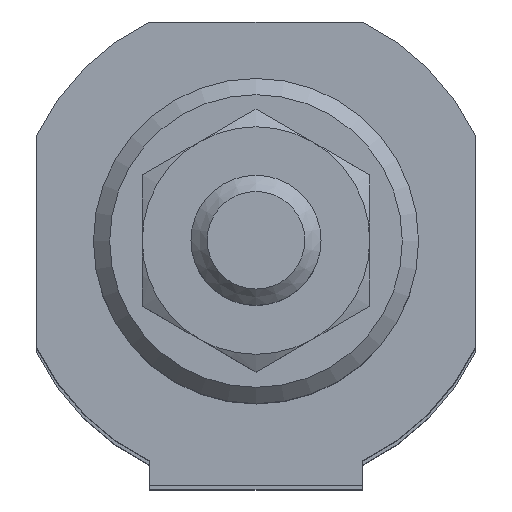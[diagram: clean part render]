
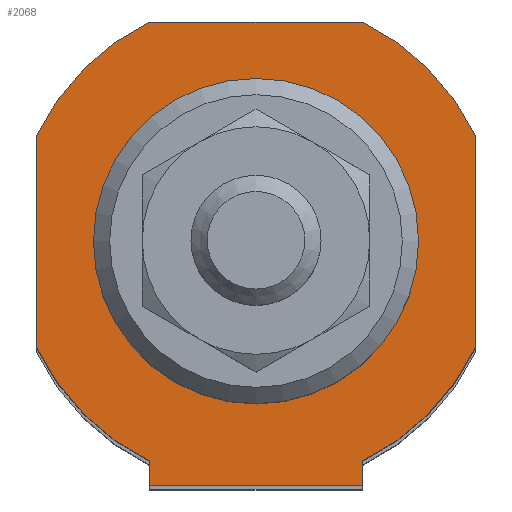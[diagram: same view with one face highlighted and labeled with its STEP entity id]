
A CAD part, top view. The second image highlights one B-rep face of the part: STEP entity #2068.
In plain terms, the highlighted planar face has unit normal (0, 0, 1).
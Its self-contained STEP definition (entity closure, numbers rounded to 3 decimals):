
#1123=CARTESIAN_POINT('',(6.538,-15.0,184.));
#1124=VERTEX_POINT('',#1123);
#1125=CARTESIAN_POINT('',(-6.538,-15.0,184.));
#1126=VERTEX_POINT('',#1125);
#1127=CARTESIAN_POINT('',(6.538,-15.0,184.));
#1128=DIRECTION('',(-1.0,0.0,0.0));
#1129=VECTOR('',#1128,13.077);
#1130=LINE('',#1127,#1129);
#1131=EDGE_CURVE('',#1124,#1126,#1130,.T.);
#1420=CARTESIAN_POINT('',(-6.538,-13.5,184.));
#1421=VERTEX_POINT('',#1420);
#1435=CARTESIAN_POINT('',(-6.538,-13.5,184.));
#1436=DIRECTION('',(0.0,-1.0,0.0));
#1437=VECTOR('',#1436,1.5);
#1438=LINE('',#1435,#1437);
#1439=EDGE_CURVE('',#1421,#1126,#1438,.T.);
#1451=CARTESIAN_POINT('',(6.538,-13.5,184.));
#1452=VERTEX_POINT('',#1451);
#1459=CARTESIAN_POINT('',(6.538,-13.5,184.));
#1460=DIRECTION('',(0.0,-1.0,0.0));
#1461=VECTOR('',#1460,1.5);
#1462=LINE('',#1459,#1461);
#1463=EDGE_CURVE('',#1452,#1124,#1462,.T.);
#1788=CARTESIAN_POINT('',(10.0,0.,184.));
#1789=VERTEX_POINT('',#1788);
#1790=CARTESIAN_POINT('',(0.,0.,184.));
#1791=DIRECTION('',(0.0,0.0,-1.0));
#1792=DIRECTION('',(-1.0,0.0,0.0));
#1793=AXIS2_PLACEMENT_3D('',#1790,#1791,#1792);
#1794=CIRCLE('',#1793,10.0);
#1795=EDGE_CURVE('',#1789,#1789,#1794,.T.);
#1888=CARTESIAN_POINT('',(6.538,13.5,184.));
#1889=VERTEX_POINT('',#1888);
#1890=CARTESIAN_POINT('',(13.5,6.538,184.));
#1891=VERTEX_POINT('',#1890);
#1892=CARTESIAN_POINT('',(0.0,0.0,184.0));
#1893=DIRECTION('',(0.0,0.0,-1.));
#1894=DIRECTION('',(-0.9,-0.436,0.0));
#1895=AXIS2_PLACEMENT_3D('',#1892,#1893,#1894);
#1896=CIRCLE('',#1895,15.);
#1897=EDGE_CURVE('',#1889,#1891,#1896,.T.);
#1920=CARTESIAN_POINT('',(13.5,-6.538,184.));
#1921=VERTEX_POINT('',#1920);
#1922=CARTESIAN_POINT('',(13.5,6.538,184.));
#1923=DIRECTION('',(0.0,-1.0,0.0));
#1924=VECTOR('',#1923,13.077);
#1925=LINE('',#1922,#1924);
#1926=EDGE_CURVE('',#1891,#1921,#1925,.T.);
#1944=CARTESIAN_POINT('',(0.0,0.0,184.0));
#1945=DIRECTION('',(0.0,0.0,-1.));
#1946=DIRECTION('',(-0.436,0.9,0.0));
#1947=AXIS2_PLACEMENT_3D('',#1944,#1945,#1946);
#1948=CIRCLE('',#1947,15.);
#1949=EDGE_CURVE('',#1921,#1452,#1948,.T.);
#1962=CARTESIAN_POINT('',(-13.5,-6.538,184.));
#1963=VERTEX_POINT('',#1962);
#1964=CARTESIAN_POINT('',(0.0,0.0,184.0));
#1965=DIRECTION('',(0.0,0.0,-1.));
#1966=DIRECTION('',(0.9,0.436,0.0));
#1967=AXIS2_PLACEMENT_3D('',#1964,#1965,#1966);
#1968=CIRCLE('',#1967,15.);
#1969=EDGE_CURVE('',#1421,#1963,#1968,.T.);
#1987=CARTESIAN_POINT('',(-13.5,6.538,184.));
#1988=VERTEX_POINT('',#1987);
#1989=CARTESIAN_POINT('',(-13.5,-6.538,184.));
#1990=DIRECTION('',(0.0,1.0,0.0));
#1991=VECTOR('',#1990,13.077);
#1992=LINE('',#1989,#1991);
#1993=EDGE_CURVE('',#1963,#1988,#1992,.T.);
#2011=CARTESIAN_POINT('',(-6.538,13.5,184.));
#2012=VERTEX_POINT('',#2011);
#2013=CARTESIAN_POINT('',(0.0,0.0,184.0));
#2014=DIRECTION('',(0.0,0.0,-1.));
#2015=DIRECTION('',(0.436,-0.9,0.0));
#2016=AXIS2_PLACEMENT_3D('',#2013,#2014,#2015);
#2017=CIRCLE('',#2016,15.);
#2018=EDGE_CURVE('',#1988,#2012,#2017,.T.);
#2036=CARTESIAN_POINT('',(-6.538,13.5,184.));
#2037=DIRECTION('',(1.0,0.0,0.0));
#2038=VECTOR('',#2037,13.077);
#2039=LINE('',#2036,#2038);
#2040=EDGE_CURVE('',#2012,#1889,#2039,.T.);
#2048=CARTESIAN_POINT('',(0.,0.0,184.));
#2049=DIRECTION('',(0.0,0.0,1.0));
#2050=DIRECTION('',(1.0,0.0,0.0));
#2051=AXIS2_PLACEMENT_3D('',#2048,#2049,#2050);
#2052=PLANE('',#2051);
#2053=ORIENTED_EDGE('',*,*,#1897,.F.);
#2054=ORIENTED_EDGE('',*,*,#2040,.F.);
#2055=ORIENTED_EDGE('',*,*,#2018,.F.);
#2056=ORIENTED_EDGE('',*,*,#1993,.F.);
#2057=ORIENTED_EDGE('',*,*,#1969,.F.);
#2058=ORIENTED_EDGE('',*,*,#1439,.T.);
#2059=ORIENTED_EDGE('',*,*,#1131,.F.);
#2060=ORIENTED_EDGE('',*,*,#1463,.F.);
#2061=ORIENTED_EDGE('',*,*,#1949,.F.);
#2062=ORIENTED_EDGE('',*,*,#1926,.F.);
#2063=EDGE_LOOP('',(#2053,#2054,#2055,#2056,#2057,#2058,#2059,#2060,#2061,#2062));
#2064=FACE_OUTER_BOUND('',#2063,.T.);
#2065=ORIENTED_EDGE('',*,*,#1795,.T.);
#2066=EDGE_LOOP('',(#2065));
#2067=FACE_BOUND('',#2066,.T.);
#2068=ADVANCED_FACE('',(#2064,#2067),#2052,.T.);
